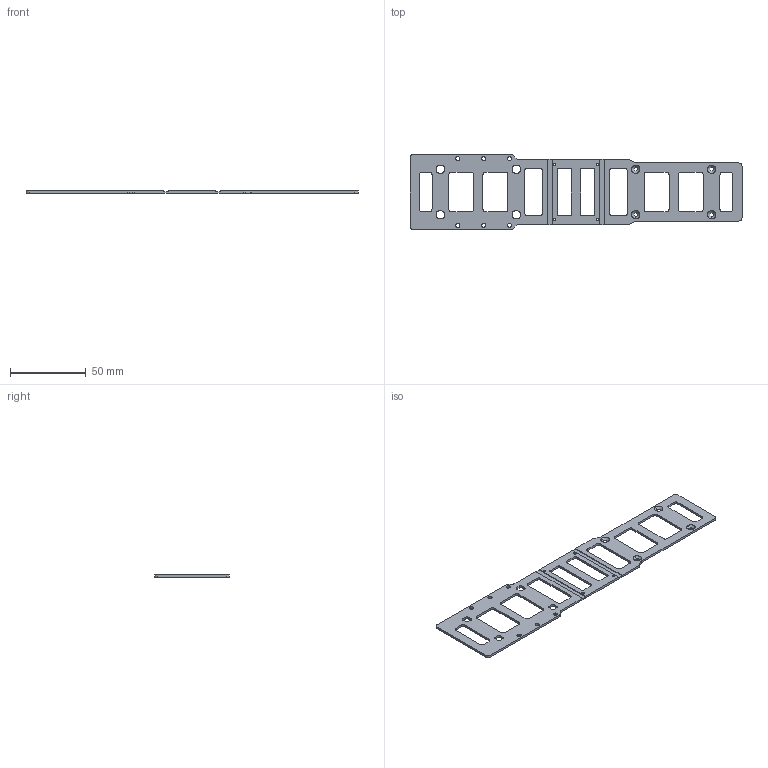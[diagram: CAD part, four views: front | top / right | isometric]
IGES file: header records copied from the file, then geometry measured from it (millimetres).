
Global section: file name: C:\Users\Knabe\Documents\Classes\8 Semester 8\DARwIn\Deliverables\DARwIn OP\DARwIn OP Part Files\CAD 2D\2D IGS\7_FR07_E130.igs; native system: NX V7.0; preprocessor: SIEMENS PLM Software NX 7.0; date: 20110525.172442; units: millimetre
Bounding box: 218.63 x 49.2 x 1.5 mm (x, y, z)
Surface area: 14009.1 mm2 (no closed solid volume)
Topology: 0 solids, 0 shells, 202 faces, 1440 edges, 1452 vertices
Faces by surface type: bspline 202
